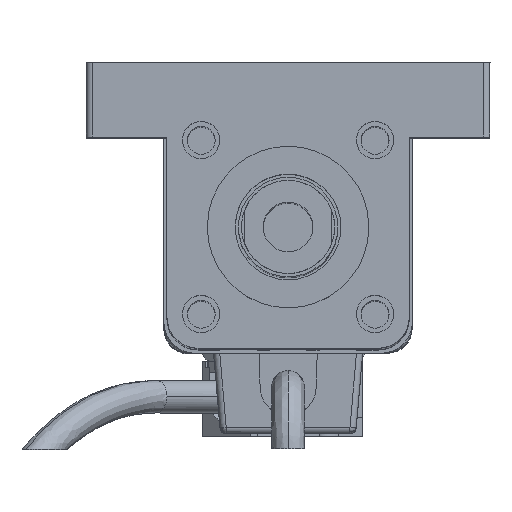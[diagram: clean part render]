
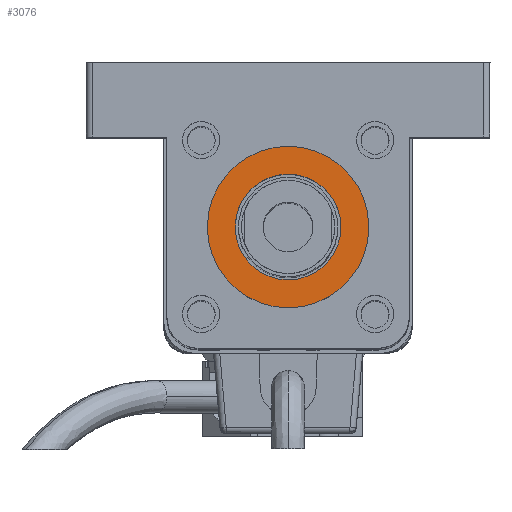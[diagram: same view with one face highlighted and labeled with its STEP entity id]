
A CAD part, top view. The second image highlights one B-rep face of the part: STEP entity #3076.
In plain terms, the highlighted planar face has unit normal (0, 0, 1) as drawn and (0, 0, -1) by its records, which use the part's own axes.
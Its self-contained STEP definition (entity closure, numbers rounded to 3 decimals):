
#447 = DIRECTION ( 'NONE',  ( 0., 0., -1. ) ) ;
#633 = DIRECTION ( 'NONE',  ( -1., 0., 0. ) ) ;
#1209 = EDGE_CURVE ( 'NONE', #5693, #20741, #19181, .T. ) ;
#1592 = CARTESIAN_POINT ( 'NONE',  ( 19.5, -19.5, -3. ) ) ;
#1605 = CARTESIAN_POINT ( 'NONE',  ( 6.5, -19.5, -3. ) ) ;
#3076 = ADVANCED_FACE ( 'NONE', ( #14569, #8595 ), #26614, .T. ) ;
#4102 = DIRECTION ( 'NONE',  ( -1., 0., 0. ) ) ;
#4859 = DIRECTION ( 'NONE',  ( 0., 0., -1. ) ) ;
#5092 = ORIENTED_EDGE ( 'NONE', *, *, #15581, .F. ) ;
#5634 = VERTEX_POINT ( 'NONE', #28327 ) ;
#5693 = VERTEX_POINT ( 'NONE', #1605 ) ;
#5992 = AXIS2_PLACEMENT_3D ( 'NONE', #8367, #12897, #19642 ) ;
#8367 = CARTESIAN_POINT ( 'NONE',  ( 19.5, -19.5, -3. ) ) ;
#8595 = FACE_OUTER_BOUND ( 'NONE', #25608, .T. ) ;
#8653 = DIRECTION ( 'NONE',  ( -1., 0., 0. ) ) ;
#9582 = EDGE_CURVE ( 'NONE', #13404, #5634, #20117, .T. ) ;
#11676 = DIRECTION ( 'NONE',  ( -1., 0., 0. ) ) ;
#12196 = CIRCLE ( 'NONE', #21024, 13. ) ;
#12897 = DIRECTION ( 'NONE',  ( 0., 0., -1. ) ) ;
#13404 = VERTEX_POINT ( 'NONE', #28716 ) ;
#13813 = CARTESIAN_POINT ( 'NONE',  ( 19.5, -19.5, -3. ) ) ;
#14430 = EDGE_LOOP ( 'NONE', ( #5092, #24919 ) ) ;
#14569 = FACE_BOUND ( 'NONE', #14430, .T. ) ;
#15398 = ORIENTED_EDGE ( 'NONE', *, *, #28406, .T. ) ;
#15581 = EDGE_CURVE ( 'NONE', #5634, #13404, #17715, .T. ) ;
#17169 = AXIS2_PLACEMENT_3D ( 'NONE', #28780, #19615, #4102 ) ;
#17295 = DIRECTION ( 'NONE',  ( 0., 0., -1. ) ) ;
#17475 = CARTESIAN_POINT ( 'NONE',  ( 32.5, -19.5, -3. ) ) ;
#17715 = CIRCLE ( 'NONE', #5992, 8.5 ) ;
#19181 = CIRCLE ( 'NONE', #20093, 13. ) ;
#19615 = DIRECTION ( 'NONE',  ( 0., 0., -1. ) ) ;
#19642 = DIRECTION ( 'NONE',  ( -1., 0., 0. ) ) ;
#20093 = AXIS2_PLACEMENT_3D ( 'NONE', #20874, #447, #11676 ) ;
#20117 = CIRCLE ( 'NONE', #26121, 8.5 ) ;
#20741 = VERTEX_POINT ( 'NONE', #17475 ) ;
#20874 = CARTESIAN_POINT ( 'NONE',  ( 19.5, -19.5, -3. ) ) ;
#21024 = AXIS2_PLACEMENT_3D ( 'NONE', #13813, #4859, #633 ) ;
#24892 = ORIENTED_EDGE ( 'NONE', *, *, #1209, .T. ) ;
#24919 = ORIENTED_EDGE ( 'NONE', *, *, #9582, .F. ) ;
#25608 = EDGE_LOOP ( 'NONE', ( #15398, #24892 ) ) ;
#26121 = AXIS2_PLACEMENT_3D ( 'NONE', #1592, #17295, #8653 ) ;
#26614 = PLANE ( 'NONE',  #17169 ) ;
#28327 = CARTESIAN_POINT ( 'NONE',  ( 11., -19.5, -3. ) ) ;
#28406 = EDGE_CURVE ( 'NONE', #20741, #5693, #12196, .T. ) ;
#28716 = CARTESIAN_POINT ( 'NONE',  ( 28., -19.5, -3. ) ) ;
#28780 = CARTESIAN_POINT ( 'NONE',  ( 19.5, -19.5, -3. ) ) ;
